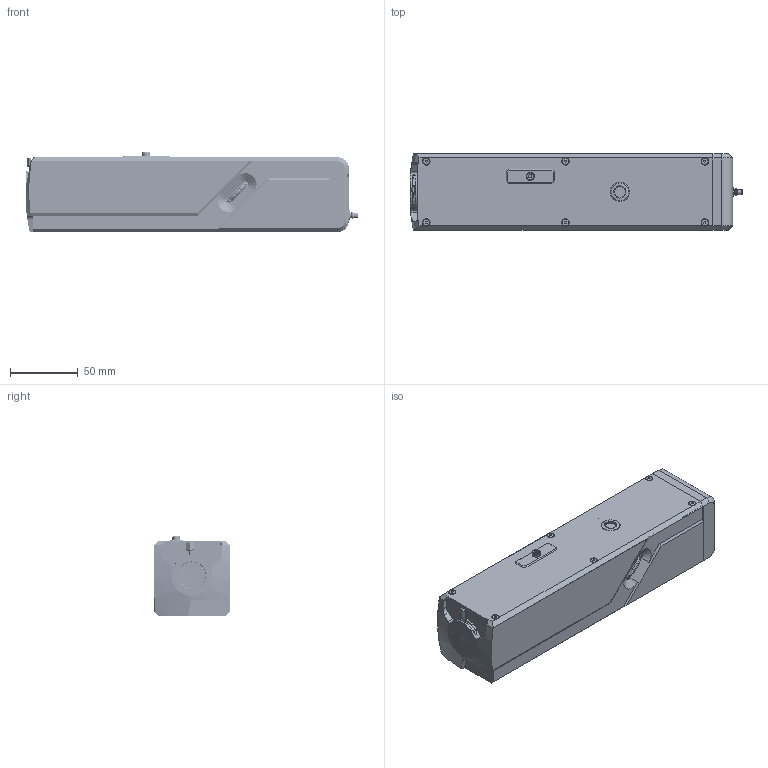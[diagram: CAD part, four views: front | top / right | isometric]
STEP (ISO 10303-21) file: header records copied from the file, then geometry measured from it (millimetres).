
FILE_DESCRIPTION (( 'STEP AP214' ), '1' );
FILE_NAME ('ROC FC.STEP', '2023-11-15T11:21:49', ( '' ), ( '' ), 'SwSTEP 2.0', 'SolidWorks 2020', '' );
FILE_SCHEMA (( 'AUTOMOTIVE_DESIGN' ));
Length unit declared in the file: millimetre
Products named in the file (26): ROC-BOX-06_ROC-BOX-06-C1; CHC_CHC-M2-L6; JST 07SR-3S; ROC-BOX-07_ROC-BOX-07-C1; ROC-BOX-04; ROC-OPT-02.3; 295-5435 - Radiall R112553000; Assemblage couvercle ROC avec mire_ROC FC - avec phase matching sens 2; ROC-OPT-05.3_ROC-OPT-05.3-D25; D20S-Solidworks_Sans tige; Assemblage cul_C5 - Cam‚ra Allied Vision - r‚glage tilt; FHC_FHC-M2-L10; ROC-BOX-05; FHC_FHC-M2.5-L20 noire; CHC_CHC-M1.6-L5; Cache réglage PM^Assemblage ROC documentation produit; CHC_CHC-M2-L4; ROC FC; COM-ADAPT-AVT_COM-ADAPT-AVT-C1; ROC-BOX-02_ROC-BOX-02-FC; Alvium-USB180-Bare-Board-IMX250-252-264-265.step; FHC_FHC-M2.5-L8 noire; Cache iris entrée^Assemblage ROC documentation produit; ROC-BOX-01_FC - int‚rieur masqu‚; ROC-BOX-03-C5_ROC-BOX-03-C4; Fenêtre mire
Assembly tree (38 placements, depth 3):
  ROC FC
    ROC-BOX-01_FC - int‚rieur masqu‚
    Assemblage couvercle ROC avec mire_ROC FC - avec phase matching sens 2
      ROC-BOX-02_ROC-BOX-02-FC
      ROC-BOX-04
      Fenêtre mire
      ROC-BOX-05
      CHC_CHC-M2-L4  x2
      FHC_FHC-M2.5-L8 noire  x6
      FHC_FHC-M2-L10
      ROC-BOX-07_ROC-BOX-07-C1
    Assemblage cul_C5 - Cam‚ra Allied Vision - r‚glage tilt
      FHC_FHC-M2.5-L20 noire  x4
      Alvium-USB180-Bare-Board-IMX250-252-264-265.step
      CHC_CHC-M1.6-L5  x4
      JST 07SR-3S
      COM-ADAPT-AVT_COM-ADAPT-AVT-C1
      ROC-BOX-03-C5_ROC-BOX-03-C4
      CHC_CHC-M2-L6  x2
      295-5435 - Radiall R112553000
    D20S-Solidworks_Sans tige
    ROC-BOX-06_ROC-BOX-06-C1
    ROC-OPT-02.3
    Cache iris entrée^Assemblage ROC documentation produit
    Cache réglage PM^Assemblage ROC documentation produit
    ROC-OPT-05.3_ROC-OPT-05.3-D25
Bounding box: 244.4 x 56 x 58.75 mm (x, y, z)
Volume: 710891.4 mm3; surface area: 112846.3 mm2
Topology: 72 solids, 210 shells, 11013 faces, 28260 edges, 18638 vertices
Faces by surface type: plane 5511, bspline 3779, cylinder 1566, cone 140, torus 16, sphere 1
Full cylindrical faces by diameter (mm): 0.5 x1, 1 x2, 1.25 x4, 1.486 x12, 1.5 x1, 1.548 x12, 1.6 x10, 1.664 x12, 1.702 x1, 2 x8, 2.08 x1, 2.4 x2, 2.45 x1, 2.5 x11, 2.6 x2, 2.85 x1, 2.9 x10, 3 x4, 3.02 x1, 3.08 x2, 3.3 x6, 3.69 x1, 3.7 x1, 3.8 x4, 4 x1, 4.2 x1, 4.75 x1, 4.8 x1, 5 x11, 6 x3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
Entity records: 567425 total; most frequent: CARTESIAN_POINT 344671, ORIENTED_EDGE 55306, EDGE_CURVE 27685, B_SPLINE_CURVE_WITH_KNOTS 25411, VERTEX_POINT 18364, DIRECTION 17086, EDGE_LOOP 12159, FACE_OUTER_BOUND 10963
